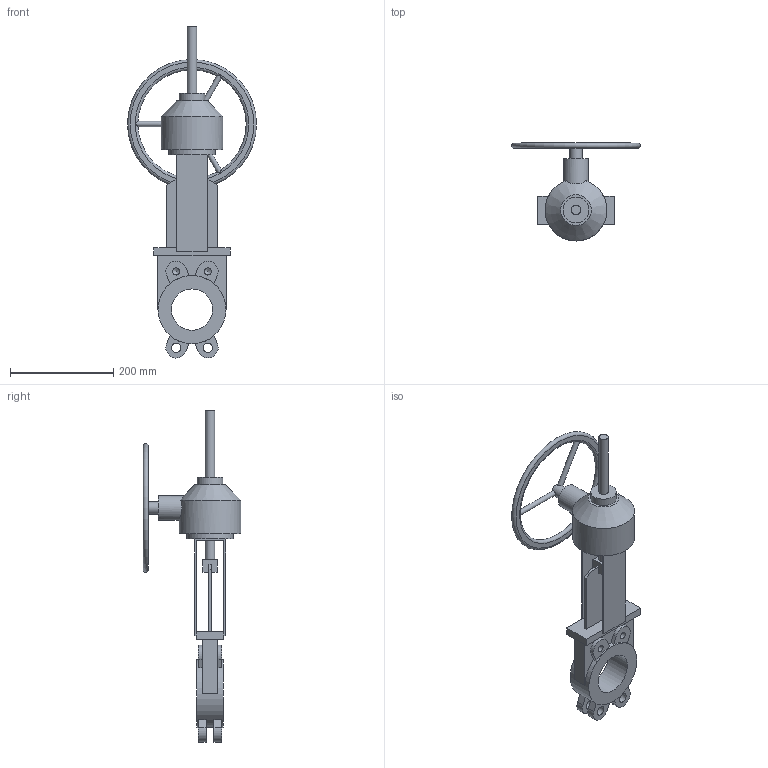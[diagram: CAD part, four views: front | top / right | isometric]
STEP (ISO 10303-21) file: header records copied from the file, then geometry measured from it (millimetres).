
FILE_DESCRIPTION(('STEP AP203'), '1');
FILE_NAME('Çàäâèæêà øèáåðíàÿ K21GV DN80 ðåäóêòîð+âûäâèæíîé øïèíäåëü', '', ('UNSPECIFIED'), ('UNSPECIFIED'), 'ASCON STEP Converter 1.6', 'ASCON Math Kernel', '');
FILE_SCHEMA(('CONFIG_CONTROL_DESIGN'));
Length unit declared in the file: millimetre
Bounding box: 250 x 190 x 643.89 mm (x, y, z)
Volume: 2328429 mm3; surface area: 296692.2 mm2
Topology: 1 solids, 1 shells, 110 faces, 288 edges, 185 vertices
Faces by surface type: plane 73, cylinder 28, cone 5, torus 4
Full cylindrical faces by diameter (mm): 10 x3, 13.835 x4, 18 x6, 24 x1, 48 x1, 50 x1, 80 x1, 90 x1, 120 x1, 132 x1
Entity records: 5531 total; most frequent: CARTESIAN_POINT 1960, DIRECTION 546, ORIENTED_EDGE 514, EDGE_CURVE 257, AXIS2_PLACEMENT_3D 193, VERTEX_POINT 181, EDGE_LOOP 162, LINE 160
